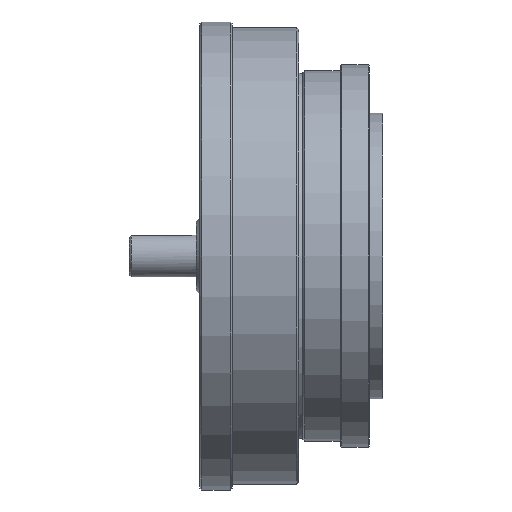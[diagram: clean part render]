
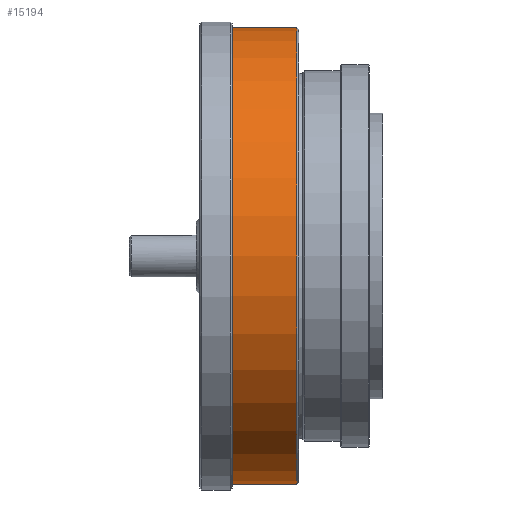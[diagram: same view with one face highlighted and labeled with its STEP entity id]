
A CAD part, front view. The second image highlights one B-rep face of the part: STEP entity #15194.
In plain terms, the highlighted cylindrical face has radius 120 mm (diameter 240 mm), a full revolution.
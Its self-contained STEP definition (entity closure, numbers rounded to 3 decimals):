
#113 = CARTESIAN_POINT ( 'NONE',  ( 12.8, 0., 120. ) ) ;
#544 = DIRECTION ( 'NONE',  ( 1., 0., 0. ) ) ;
#1095 = ORIENTED_EDGE ( 'NONE', *, *, #8218, .T. ) ;
#1112 = CARTESIAN_POINT ( 'NONE',  ( 51., 0., 0. ) ) ;
#3203 = CIRCLE ( 'NONE', #11934, 120. ) ;
#3535 = DIRECTION ( 'NONE',  ( 0., 0., -1. ) ) ;
#3578 = DIRECTION ( 'NONE',  ( 0., 0., -1. ) ) ;
#3824 = VERTEX_POINT ( 'NONE', #7440 ) ;
#4605 = ORIENTED_EDGE ( 'NONE', *, *, #17350, .T. ) ;
#7169 = AXIS2_PLACEMENT_3D ( 'NONE', #15087, #544, #17541 ) ;
#7440 = CARTESIAN_POINT ( 'NONE',  ( 51., 0., -120. ) ) ;
#8218 = EDGE_CURVE ( 'NONE', #3824, #3824, #3203, .T. ) ;
#8449 = CARTESIAN_POINT ( 'NONE',  ( 115.8, 0., 0. ) ) ;
#8602 = FACE_OUTER_BOUND ( 'NONE', #8791, .T. ) ;
#8791 = EDGE_LOOP ( 'NONE', ( #4605 ) ) ;
#11934 = AXIS2_PLACEMENT_3D ( 'NONE', #1112, #18112, #3535 ) ;
#15087 = CARTESIAN_POINT ( 'NONE',  ( 12.8, 0., 0. ) ) ;
#15194 = ADVANCED_FACE ( 'NONE', ( #8602, #26478 ), #18230, .T. ) ;
#17206 = EDGE_LOOP ( 'NONE', ( #1095 ) ) ;
#17350 = EDGE_CURVE ( 'NONE', #30265, #30265, #31098, .T. ) ;
#17541 = DIRECTION ( 'NONE',  ( 0., 0., 1. ) ) ;
#18112 = DIRECTION ( 'NONE',  ( -1., 0., 0. ) ) ;
#18230 = CYLINDRICAL_SURFACE ( 'NONE', #18553, 120. ) ;
#18553 = AXIS2_PLACEMENT_3D ( 'NONE', #8449, #23037, #3578 ) ;
#23037 = DIRECTION ( 'NONE',  ( 1., 0., 0. ) ) ;
#26478 = FACE_OUTER_BOUND ( 'NONE', #17206, .T. ) ;
#30265 = VERTEX_POINT ( 'NONE', #113 ) ;
#31098 = CIRCLE ( 'NONE', #7169, 120. ) ;
